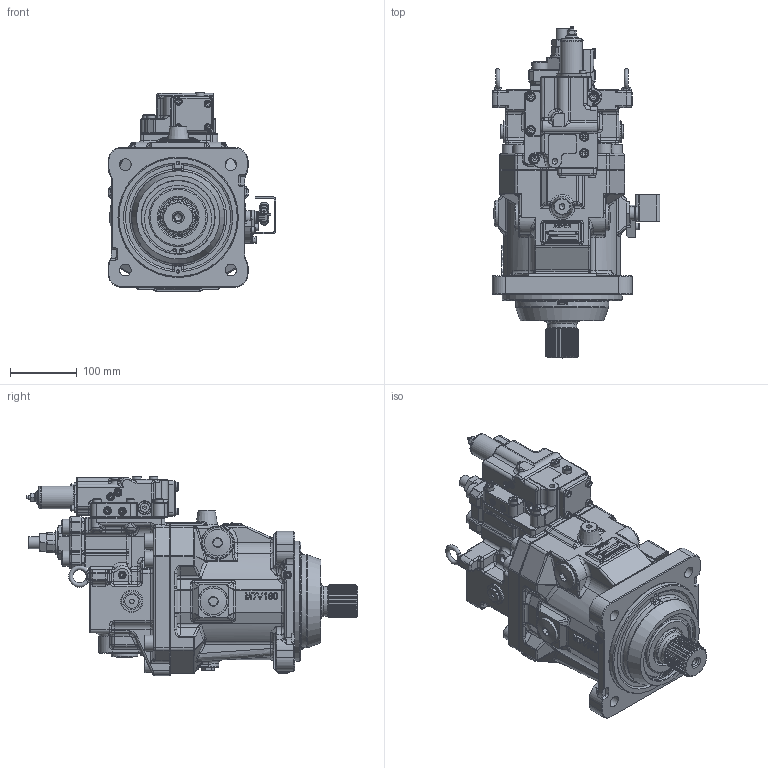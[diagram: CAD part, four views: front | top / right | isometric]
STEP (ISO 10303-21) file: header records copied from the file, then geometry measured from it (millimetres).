
FILE_DESCRIPTION(/* description */ (''),/* implementation_level */ '2;1');
FILE_NAME(/* name */ 'M7V160AC48-AAAE#XXXN-01.stp',/* time_stamp */ '2025-12-17T13:59:52Z',/* author */ ('Sjolliffe'),/* organization */ (''),/* preprocessor_version */ 'ST-DEVELOPER v20',/* originating_system */ 'Autodesk Inventor 2024',/* authorisation */ '');
FILE_SCHEMA (('CONFIG_CONTROL_DESIGN'));
Products named in the file (1): M7V160AC48-AAAE#XXXN-01
Bounding box: 251.7 x 498.3 x 300 mm (x, y, z)
Volume: 11286445.5 mm3; surface area: 521893.6 mm2
Topology: 1 solids, 14 shells, 4540 faces, 11818 edges, 7402 vertices
Faces by surface type: plane 1809, cylinder 1438, bspline 581, cone 372, torus 243, sphere 97
Full cylindrical faces by diameter (mm): 1.44 x2, 3 x2, 4.5 x1, 4.917 x2, 6 x5, 6.2 x1, 6.6 x1, 8.376 x2, 8.5 x2, 9.4 x19, 10 x9, 10.106 x1, 10.5 x1, 11 x4, 11.835 x8, 12 x17, 12.4 x1, 13 x6, 13.9 x1, 14 x6, 14.5 x1, 14.95 x2, 15.15 x1, 16 x1, 17.5 x5, 18 x3, 19 x1, 20 x1, 21 x3, 24 x13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
Entity records: 164393 total; most frequent: CARTESIAN_POINT 52643, ORIENTED_EDGE 22983, DIRECTION 22016, EDGE_CURVE 11671, AXIS2_PLACEMENT_3D 8032, VERTEX_POINT 7395, LINE 5952, VECTOR 5952
